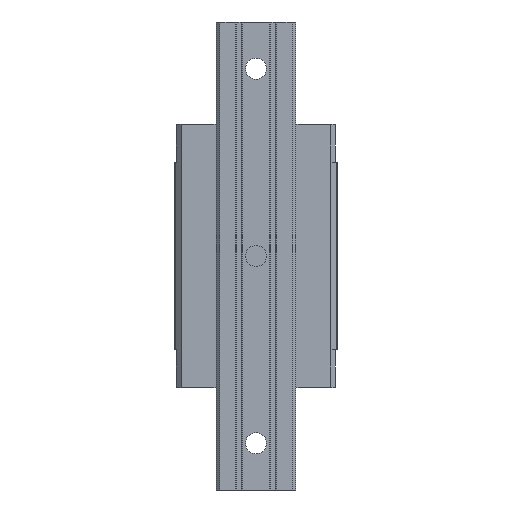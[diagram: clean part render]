
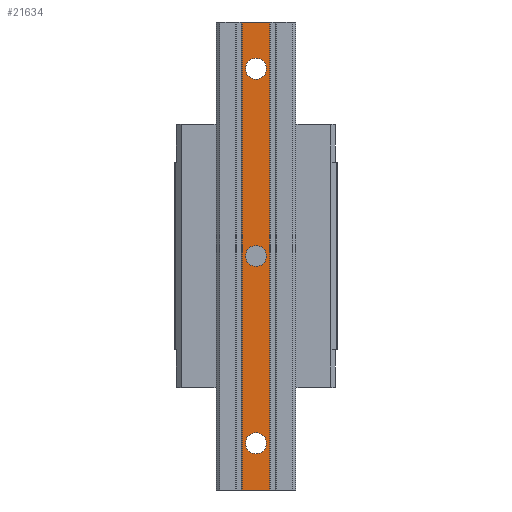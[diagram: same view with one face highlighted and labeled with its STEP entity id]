
A CAD part, front view. The second image highlights one B-rep face of the part: STEP entity #21634.
In plain terms, the highlighted planar face has unit normal (0, -1, 0).
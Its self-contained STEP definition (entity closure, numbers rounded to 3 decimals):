
#625 = ORIENTED_EDGE ( 'NONE', *, *, #11462, .T. ) ;
#1221 = ORIENTED_EDGE ( 'NONE', *, *, #34308, .T. ) ;
#1423 = CIRCLE ( 'NONE', #31900, 4.5 ) ;
#1480 = CARTESIAN_POINT ( 'NONE',  ( 0., -29., 0. ) ) ;
#1488 = CIRCLE ( 'NONE', #33913, 4.5 ) ;
#1647 = CARTESIAN_POINT ( 'NONE',  ( 0., -29., -75.5 ) ) ;
#1736 = EDGE_CURVE ( 'NONE', #15401, #23822, #8223, .T. ) ;
#2711 = AXIS2_PLACEMENT_3D ( 'NONE', #3626, #40183, #12968 ) ;
#2909 = EDGE_CURVE ( 'NONE', #29647, #23822, #3686, .T. ) ;
#3626 = CARTESIAN_POINT ( 'NONE',  ( 0., -29., -80. ) ) ;
#3686 = LINE ( 'NONE', #9775, #26839 ) ;
#3747 = VERTEX_POINT ( 'NONE', #17895 ) ;
#4172 = VERTEX_POINT ( 'NONE', #31160 ) ;
#4617 = ORIENTED_EDGE ( 'NONE', *, *, #10731, .T. ) ;
#4623 = VECTOR ( 'NONE', #39655, 1000. ) ;
#5408 = DIRECTION ( 'NONE',  ( 0., -1., 0. ) ) ;
#5449 = EDGE_CURVE ( 'NONE', #21233, #4172, #1423, .T. ) ;
#5928 = EDGE_CURVE ( 'NONE', #36185, #23175, #1488, .T. ) ;
#6684 = CARTESIAN_POINT ( 'NONE',  ( 0., -29., 80. ) ) ;
#6829 = CIRCLE ( 'NONE', #12657, 4.5 ) ;
#8223 = LINE ( 'NONE', #33809, #29592 ) ;
#8931 = CARTESIAN_POINT ( 'NONE',  ( 0., -29., 84.5 ) ) ;
#9775 = CARTESIAN_POINT ( 'NONE',  ( 0., -29., 100. ) ) ;
#9963 = VECTOR ( 'NONE', #10043, 1000. ) ;
#10043 = DIRECTION ( 'NONE',  ( 1., 0., 0. ) ) ;
#10213 = VERTEX_POINT ( 'NONE', #33356 ) ;
#10605 = CARTESIAN_POINT ( 'NONE',  ( 0., -29., 4.5 ) ) ;
#10731 = EDGE_CURVE ( 'NONE', #23175, #36185, #6829, .T. ) ;
#10781 = ORIENTED_EDGE ( 'NONE', *, *, #12178, .T. ) ;
#11106 = FACE_OUTER_BOUND ( 'NONE', #19776, .T. ) ;
#11462 = EDGE_CURVE ( 'NONE', #4172, #21233, #15995, .T. ) ;
#11637 = LINE ( 'NONE', #15260, #4623 ) ;
#12178 = EDGE_CURVE ( 'NONE', #10213, #15401, #16539, .T. ) ;
#12464 = CARTESIAN_POINT ( 'NONE',  ( 0., -29., 80. ) ) ;
#12657 = AXIS2_PLACEMENT_3D ( 'NONE', #1480, #13682, #23612 ) ;
#12968 = DIRECTION ( 'NONE',  ( 0., 0., 1. ) ) ;
#13682 = DIRECTION ( 'NONE',  ( 0., 1., 0. ) ) ;
#14248 = CARTESIAN_POINT ( 'NONE',  ( 5.85, -29., -100. ) ) ;
#14763 = DIRECTION ( 'NONE',  ( 0., 0., -1. ) ) ;
#15260 = CARTESIAN_POINT ( 'NONE',  ( -5.85, -29., -100. ) ) ;
#15396 = AXIS2_PLACEMENT_3D ( 'NONE', #35478, #5408, #14763 ) ;
#15401 = VERTEX_POINT ( 'NONE', #14248 ) ;
#15995 = CIRCLE ( 'NONE', #32877, 4.5 ) ;
#16539 = LINE ( 'NONE', #22414, #9963 ) ;
#16806 = FACE_BOUND ( 'NONE', #24456, .T. ) ;
#17895 = CARTESIAN_POINT ( 'NONE',  ( 0., -29., -84.5 ) ) ;
#18450 = ORIENTED_EDGE ( 'NONE', *, *, #38654, .T. ) ;
#18927 = CARTESIAN_POINT ( 'NONE',  ( -5.85, -29., 100. ) ) ;
#19090 = DIRECTION ( 'NONE',  ( 0., 0., 1. ) ) ;
#19651 = ORIENTED_EDGE ( 'NONE', *, *, #2909, .F. ) ;
#19776 = EDGE_LOOP ( 'NONE', ( #23897, #19651, #18450, #10781 ) ) ;
#20129 = VERTEX_POINT ( 'NONE', #1647 ) ;
#21233 = VERTEX_POINT ( 'NONE', #8931 ) ;
#21634 = ADVANCED_FACE ( 'NONE', ( #22882, #16806, #33027, #11106 ), #33222, .T. ) ;
#22414 = CARTESIAN_POINT ( 'NONE',  ( 0., -29., -100. ) ) ;
#22882 = FACE_BOUND ( 'NONE', #33907, .T. ) ;
#23175 = VERTEX_POINT ( 'NONE', #10605 ) ;
#23612 = DIRECTION ( 'NONE',  ( 0., 0., 1. ) ) ;
#23730 = CARTESIAN_POINT ( 'NONE',  ( 0., -29., -4.5 ) ) ;
#23822 = VERTEX_POINT ( 'NONE', #33506 ) ;
#23897 = ORIENTED_EDGE ( 'NONE', *, *, #1736, .T. ) ;
#23996 = CARTESIAN_POINT ( 'NONE',  ( 0., -29., -80. ) ) ;
#24456 = EDGE_LOOP ( 'NONE', ( #35229, #625 ) ) ;
#24612 = DIRECTION ( 'NONE',  ( 0., 1., 0. ) ) ;
#25786 = EDGE_CURVE ( 'NONE', #20129, #3747, #32250, .T. ) ;
#26839 = VECTOR ( 'NONE', #37177, 1000. ) ;
#28015 = CIRCLE ( 'NONE', #2711, 4.5 ) ;
#28371 = AXIS2_PLACEMENT_3D ( 'NONE', #23996, #37293, #28372 ) ;
#28372 = DIRECTION ( 'NONE',  ( 0., 0., 1. ) ) ;
#29592 = VECTOR ( 'NONE', #39284, 1000. ) ;
#29599 = CARTESIAN_POINT ( 'NONE',  ( 0., -29., 0. ) ) ;
#29647 = VERTEX_POINT ( 'NONE', #18927 ) ;
#31160 = CARTESIAN_POINT ( 'NONE',  ( 0., -29., 75.5 ) ) ;
#31900 = AXIS2_PLACEMENT_3D ( 'NONE', #12464, #39680, #36629 ) ;
#32250 = CIRCLE ( 'NONE', #28371, 4.5 ) ;
#32877 = AXIS2_PLACEMENT_3D ( 'NONE', #6684, #24612, #19090 ) ;
#33027 = FACE_BOUND ( 'NONE', #37182, .T. ) ;
#33222 = PLANE ( 'NONE',  #15396 ) ;
#33356 = CARTESIAN_POINT ( 'NONE',  ( -5.85, -29., -100. ) ) ;
#33506 = CARTESIAN_POINT ( 'NONE',  ( 5.85, -29., 100. ) ) ;
#33809 = CARTESIAN_POINT ( 'NONE',  ( 5.85, -29., -100. ) ) ;
#33907 = EDGE_LOOP ( 'NONE', ( #36522, #1221 ) ) ;
#33913 = AXIS2_PLACEMENT_3D ( 'NONE', #29599, #38131, #34909 ) ;
#33921 = ORIENTED_EDGE ( 'NONE', *, *, #5928, .T. ) ;
#34308 = EDGE_CURVE ( 'NONE', #3747, #20129, #28015, .T. ) ;
#34909 = DIRECTION ( 'NONE',  ( 0., 0., 1. ) ) ;
#35229 = ORIENTED_EDGE ( 'NONE', *, *, #5449, .T. ) ;
#35478 = CARTESIAN_POINT ( 'NONE',  ( -5.85, -29., -100. ) ) ;
#36185 = VERTEX_POINT ( 'NONE', #23730 ) ;
#36522 = ORIENTED_EDGE ( 'NONE', *, *, #25786, .T. ) ;
#36629 = DIRECTION ( 'NONE',  ( 0., 0., 1. ) ) ;
#37177 = DIRECTION ( 'NONE',  ( 1., 0., 0. ) ) ;
#37182 = EDGE_LOOP ( 'NONE', ( #4617, #33921 ) ) ;
#37293 = DIRECTION ( 'NONE',  ( 0., 1., 0. ) ) ;
#38131 = DIRECTION ( 'NONE',  ( 0., 1., 0. ) ) ;
#38654 = EDGE_CURVE ( 'NONE', #29647, #10213, #11637, .T. ) ;
#39284 = DIRECTION ( 'NONE',  ( 0., 0., 1. ) ) ;
#39655 = DIRECTION ( 'NONE',  ( 0., 0., -1. ) ) ;
#39680 = DIRECTION ( 'NONE',  ( 0., 1., 0. ) ) ;
#40183 = DIRECTION ( 'NONE',  ( 0., 1., 0. ) ) ;
